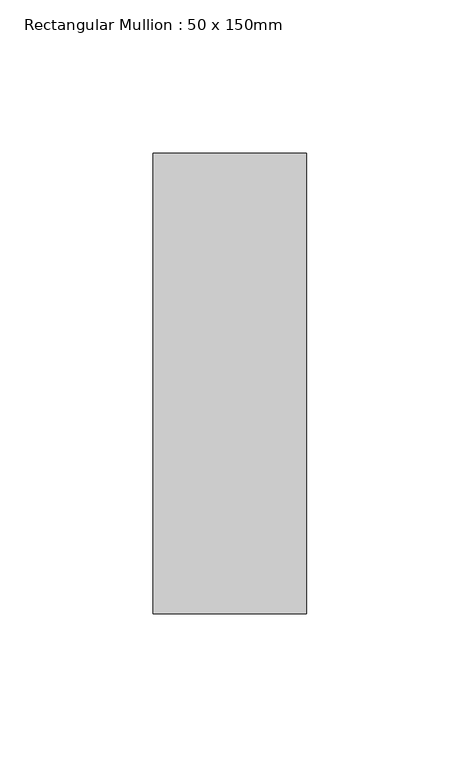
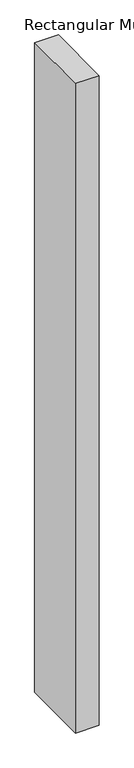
"""IFC4 building model written with IfcOpenShell, lengths in millimetres: member geometry, Rectangular Mullion : 50 x 150mm."""

import ifcopenshell
import ifcopenshell.guid

model = None  # the IFC model being written
_history = None  # IfcOwnerHistory: only IFC2X3 demands one
_inside = {}  # id of a spatial element -> (the spatial element, [elements in it])
_under = {}  # id of a project, library or spatial element -> (it, [spatial elements below it])
_declared = {}  # id of a project -> (the project, [libraries it declares])
_typed = {}  # id of a type object -> (the type object, [elements of that type])
_made_of = {}  # id of a material, layer set ... -> (it, [elements and type objects made of it])


def new_model(schema):
    """Start an empty IFC model of exactly this schema.

    Asked for "IFC4X3", IfcOpenShell would pick the latest addendum, in which some entities
    have other attributes; the version numbers below select the first issue.
    IFC2X3 requires an IfcOwnerHistory on every rooted entity: one is made here for all.
    """
    global model, _history
    if schema == "IFC4X3":
        model = ifcopenshell.file(schema_version=(4, 3, 0, 0))
    else:
        model = ifcopenshell.file(schema=schema)
    _inside.clear()
    _under.clear()
    _declared.clear()
    _typed.clear()
    _made_of.clear()
    _history = None
    if model.schema == "IFC2X3":
        org = make("IfcOrganization", Name="unknown")
        user = make(
            "IfcPersonAndOrganization",
            ThePerson=make("IfcPerson", FamilyName="unknown"),
            TheOrganization=org,
        )
        app = make(
            "IfcApplication",
            ApplicationDeveloper=org,
            Version="unknown",
            ApplicationFullName="unknown",
            ApplicationIdentifier="unknown",
        )
        _history = make(
            "IfcOwnerHistory",
            OwningUser=user,
            OwningApplication=app,
            ChangeAction="ADDED",
            CreationDate=0,
        )
    return model


def make(cls, **values):
    """One entity of the class cls with the attributes given. An attribute that is None is left unset."""
    return model.create_entity(
        cls, **{name: value for name, value in values.items() if value is not None}
    )


def rooted(cls, **values):
    """An entity with a GlobalId (a new one), such as an element, a storey or a relation."""
    return make(cls, GlobalId=ifcopenshell.guid.new(), OwnerHistory=_history, **values)


def si_unit(unit_type, name, prefix=None):
    """IfcSIUnit, for example si_unit("LENGTHUNIT", "METRE", prefix="MILLI")."""
    return make("IfcSIUnit", UnitType=unit_type, Prefix=prefix, Name=name)


def assignment(units):
    """IfcUnitAssignment: the units of a project."""
    return None if units is None else make("IfcUnitAssignment", Units=units)


def point(xyz):
    """IfcCartesianPoint."""
    return None if xyz is None else make("IfcCartesianPoint", Coordinates=xyz)


def direction(xyz):
    """IfcDirection."""
    return None if xyz is None else make("IfcDirection", DirectionRatios=xyz)


def frame(location, z_axis=None, x_axis=None):
    """IfcAxis2Placement3D, a coordinate frame: its origin and axes. An axis left out is left unset."""
    return make(
        "IfcAxis2Placement3D",
        Location=point(location),
        Axis=direction(z_axis),
        RefDirection=direction(x_axis),
    )


def origin():
    """The frame at (0, 0, 0) with its axes left unset."""
    return frame((0.0, 0.0, 0.0))


def place(relative_to, where):
    """IfcLocalPlacement: puts the frame where relative to a parent placement (None: the world)."""
    return make(
        "IfcLocalPlacement", PlacementRelTo=relative_to, RelativePlacement=where
    )


def context(
    kind, dimensions, precision=None, world=None, true_north=None, identifier=None
):
    """IfcGeometricRepresentationContext, for example the 3D "Model" context."""
    return make(
        "IfcGeometricRepresentationContext",
        ContextIdentifier=identifier,
        ContextType=kind,
        CoordinateSpaceDimension=dimensions,
        Precision=precision,
        WorldCoordinateSystem=world,
        TrueNorth=true_north,
    )


def project(units=None, contexts=None):
    """IfcProject with its units and contexts."""
    return rooted(
        "IfcProject",
        Name="project",
        RepresentationContexts=contexts,
        UnitsInContext=assignment(units),
    )


def spatial(cls, under=None, at=None, **own):
    """A site, building, storey or space (cls), placed at a placement, below another one or the project."""
    s = rooted(cls, ObjectPlacement=at, **own)
    if under is not None:
        _under.setdefault(under.id(), (under, []))[1].append(s)
    return s


def polyline(points):
    """IfcPolyline through the points."""
    return make("IfcPolyline", Points=[point(p) for p in points])


def outline(outer, holes=None, kind="AREA"):
    """IfcArbitraryClosedProfileDef: a profile drawn as a closed curve; with holes, ...WithVoids."""
    if holes is None:
        return make("IfcArbitraryClosedProfileDef", ProfileType=kind, OuterCurve=outer)
    return make(
        "IfcArbitraryProfileDefWithVoids",
        ProfileType=kind,
        OuterCurve=outer,
        InnerCurves=holes,
    )


def extrude(swept, where, along, depth):
    """IfcExtrudedAreaSolid: the profile swept, set in the frame where, extruded along a direction by depth."""
    return make(
        "IfcExtrudedAreaSolid",
        SweptArea=swept,
        Position=where,
        ExtrudedDirection=direction(along),
        Depth=depth,
    )


def shape(context_of_items, identifier, shape_type, items):
    """IfcShapeRepresentation: the items that make up one representation, for example the "Body"."""
    return make(
        "IfcShapeRepresentation",
        ContextOfItems=context_of_items,
        RepresentationIdentifier=identifier,
        RepresentationType=shape_type,
        Items=items,
    )


def source(mapping_origin, context_of_items, identifier, shape_type, items):
    """IfcRepresentationMap: a shape defined once, which mapped items show again and again."""
    return make(
        "IfcRepresentationMap",
        MappingOrigin=mapping_origin,
        MappedRepresentation=shape(context_of_items, identifier, shape_type, items),
    )


def transform(
    local_origin,
    x_axis=None,
    y_axis=None,
    z_axis=None,
    scale=None,
    scale2=None,
    scale3=None,
    uniform=True,
):
    """IfcCartesianTransformationOperator3D, or its non-uniform kind. x_axis, y_axis, z_axis: its Axis1, 2, 3."""
    if uniform:
        return make(
            "IfcCartesianTransformationOperator3D",
            Axis1=direction(x_axis),
            Axis2=direction(y_axis),
            LocalOrigin=point(local_origin),
            Scale=scale,
            Axis3=direction(z_axis),
        )
    return make(
        "IfcCartesianTransformationOperator3DnonUniform",
        Axis1=direction(x_axis),
        Axis2=direction(y_axis),
        LocalOrigin=point(local_origin),
        Scale=scale,
        Axis3=direction(z_axis),
        Scale2=scale2,
        Scale3=scale3,
    )


def mapped(mapping_source, mapping_target):
    """IfcMappedItem: shows the shape of a source again, moved by a transform."""
    return make(
        "IfcMappedItem", MappingSource=mapping_source, MappingTarget=mapping_target
    )


def made_of(thing, what):
    """Note that an element or type object is made of a material, layer set ...; save() writes the relation."""
    if what is not None:
        _made_of.setdefault(what.id(), (what, []))[1].append(thing)
    return thing


def element(
    cls,
    number,
    at=None,
    inside=None,
    cuts=None,
    type_object=None,
    material=None,
    context=None,
    identifier="Body",
    shape_type=None,
    held_by="IfcProductDefinitionShape",
    body=None,
    shapes=None,
    **own,
):
    """One element of the class cls, such as IfcWall. Its Tag is "e" and its number.

    at: its placement. inside: the storey or other place that contains it. cuts: it is an
    opening in that element (IfcRelVoidsElement). A single representation is given by context,
    identifier, shape_type and body (its items); several are given by shapes. held_by: the class
    of the entity that holds the representations. save() writes the other relations.
    """
    e = rooted(cls, Tag="e%d" % number, ObjectPlacement=at, **own)
    if body is not None:
        shapes = [shape(context, identifier, shape_type, body)]
    if shapes is not None:
        e.Representation = make(held_by, Representations=shapes)
    if inside is not None:
        _inside.setdefault(inside.id(), (inside, []))[1].append(e)
    if cuts is not None:
        rooted(
            "IfcRelVoidsElement", RelatingBuildingElement=cuts, RelatedOpeningElement=e
        )
    if type_object is not None:
        _typed.setdefault(type_object.id(), (type_object, []))[1].append(e)
    return made_of(e, material)


def aggregate(whole, parts):
    """IfcRelAggregates: a whole, such as a stair, and the parts it consists of."""
    return rooted("IfcRelAggregates", RelatingObject=whole, RelatedObjects=parts)


def save(model, path):
    """Write the relations noted so far, then the file.

    IfcRelAggregates (storeys below a building ...), IfcRelContainedInSpatialStructure (elements
    in a storey), IfcRelDefinesByType, IfcRelAssociatesMaterial and IfcRelDeclares: one each for
    every whole, place, type object, material and project.
    """
    for whole, parts in _under.values():
        aggregate(whole, parts)
    for where, things in _inside.values():
        rooted(
            "IfcRelContainedInSpatialStructure",
            RelatedElements=things,
            RelatingStructure=where,
        )
    for kind, things in _typed.values():
        rooted("IfcRelDefinesByType", RelatedObjects=things, RelatingType=kind)
    for what, things in _made_of.values():
        rooted("IfcRelAssociatesMaterial", RelatedObjects=things, RelatingMaterial=what)
    for by, libraries in _declared.values():
        rooted("IfcRelDeclares", RelatingContext=by, RelatedDefinitions=libraries)
    model.write(path)


def rectangular_mullion_50_x_150mm_8154ebc9(model_context):
    return source(origin(), model_context, "Body", "SweptSolid", [
        extrude(outline(polyline([(25.0, 75.0), (25.0, -75.0), (-25.0, -75.0), (-25.0, 75.0), (25.0, 75.0)])), frame((0.0, 0.0, -1454.8186276), z_axis=(0.0, 0.0, 1.0), x_axis=(1.0, 0.0, 0.0)), (0.0, 0.0, 1.0), 1454.8186276),
    ])


if __name__ == "__main__":
    model = new_model("IFC4")
    model_context = context("Model", 3, world=origin())
    ifc_project = project(units=[si_unit("LENGTHUNIT", "METRE", prefix="MILLI")], contexts=[model_context])
    site = spatial("IfcSite", under=ifc_project)
    building = spatial("IfcBuilding", under=site)
    placement = place(None, origin())
    rectangular_mullion_50_x_150mm_shape = rectangular_mullion_50_x_150mm_8154ebc9(model_context)
    element("IfcMember", 1, ObjectType="Rectangular Mullion : 50 x 150mm", at=placement, inside=building, context=model_context, shape_type="MappedRepresentation", body=[
        mapped(rectangular_mullion_50_x_150mm_shape, transform((0.0, 0.0, 0.0), x_axis=(1.0, 0.0, 0.0), y_axis=(0.0, 1.0, 0.0), z_axis=(0.0, 0.0, 1.0))),
    ])
    save(model, "model.ifc")
